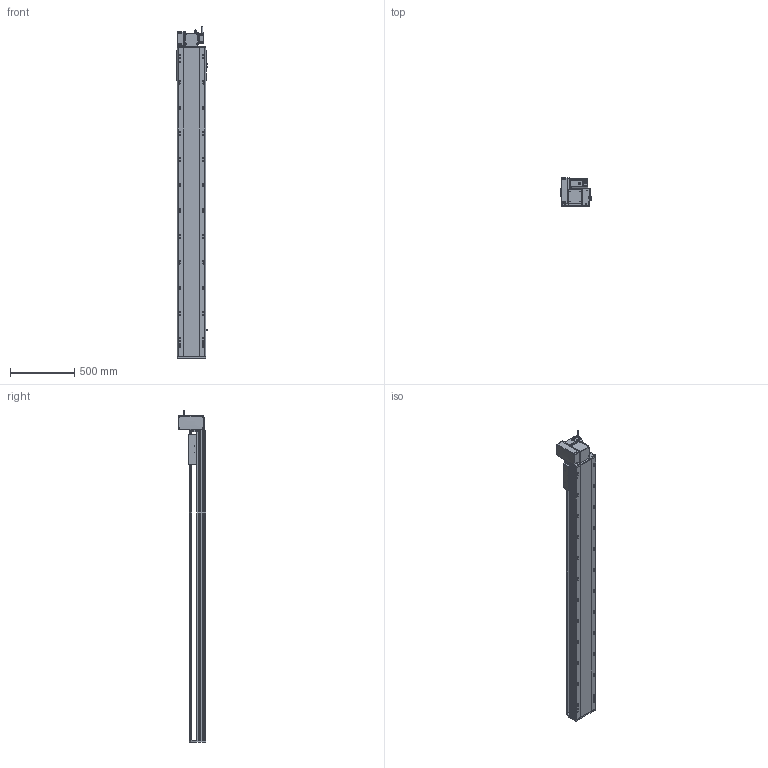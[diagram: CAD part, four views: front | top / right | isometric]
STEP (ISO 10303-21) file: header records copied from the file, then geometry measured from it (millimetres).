
FILE_DESCRIPTION (( 'STEP AP214' ), '1' );
FILE_NAME ('RTB22S-XX-2050-LW-M75-C4.STEP', '2025-12-12T06:00:48', ( '' ), ( '' ), 'SwSTEP 2.0', 'SolidWorks 2018', '' );
FILE_SCHEMA (( 'AUTOMOTIVE_DESIGN' ));
Length unit declared in the file: millimetre
Products named in the file (14): RTB22S-GY-018P^RTB22S-LW-々湍釱蚾饜_RTB22S-XX-XX-LW-M75-C4; RTH22-GY-013外置感应片^RTB22S-XX-XX-LW-M75-C4; RTB22S-L-011菁釱^RTB22S-XX-XX-LW-M75-C4; RTB22S-GY-008-M75--萇儂啣^RTB22S-LW-々湍釱蚾饜_RTB22S-XX-XX-LW-M75-C4; RTB22S-GY-005P^RTB22S-LW-々湍釱蚾饜_RTB22S-XX-XX-LW-M75-C4; RTB22S-LW-々湍釱蚾饜^RTB22S-XX-XX-LW-M75-C4; RTB22S-GY-007奻裔^RTB22S-XX-XX-LW-M75-C4; RTB22S-GY-017P^RTB22S-LW-々湍釱蚾饜_RTB22S-XX-XX-LW-M75-C4; OMRON EE-SX672 传感器^RTB22S-XX-XX-LW-M75-C4; RTB22S-GY-001耜裔^RTB22S-XX-XX-LW-M75-C4; 750W萇儂^RTB22S-XX-XX-LW-M75-C4; RTB22S-GY-014--々湍釱^RTB22S-LW-々湍釱蚾饜_RTB22S-XX-XX-LW-M75-C4; RTB22S-L-004賑釱^RTB22S-XX-XX-LW-M75-C4; RTB22S-XX-2050-LW-M75-C4
Assembly tree (16 placements, depth 3):
  RTB22S-XX-2050-LW-M75-C4
    RTB22S-L-011菁釱^RTB22S-XX-XX-LW-M75-C4
    RTB22S-GY-001耜裔^RTB22S-XX-XX-LW-M75-C4
    750W萇儂^RTB22S-XX-XX-LW-M75-C4
    RTB22S-GY-007奻裔^RTB22S-XX-XX-LW-M75-C4
    RTB22S-L-004賑釱^RTB22S-XX-XX-LW-M75-C4
    RTH22-GY-013外置感应片^RTB22S-XX-XX-LW-M75-C4
    OMRON EE-SX672 传感器^RTB22S-XX-XX-LW-M75-C4  x3
    RTB22S-LW-々湍釱蚾饜^RTB22S-XX-XX-LW-M75-C4
      RTB22S-GY-014--々湍釱^RTB22S-LW-々湍釱蚾饜_RTB22S-XX-XX-LW-M75-C4
      RTB22S-GY-017P^RTB22S-LW-々湍釱蚾饜_RTB22S-XX-XX-LW-M75-C4  x2
      RTB22S-GY-005P^RTB22S-LW-々湍釱蚾饜_RTB22S-XX-XX-LW-M75-C4
      RTB22S-GY-008-M75--萇儂啣^RTB22S-LW-々湍釱蚾饜_RTB22S-XX-XX-LW-M75-C4
      RTB22S-GY-018P^RTB22S-LW-々湍釱蚾饜_RTB22S-XX-XX-LW-M75-C4
Bounding box: 238.5 x 215.5 x 2582.2 mm (x, y, z)
Volume: 33517661.3 mm3; surface area: 3440809.4 mm2
Topology: 15 solids, 15 shells, 2073 faces, 5636 edges, 3602 vertices
Faces by surface type: plane 925, cylinder 682, bspline 296, cone 158, sphere 8, torus 4
Entity records: 56058 total; most frequent: CARTESIAN_POINT 15912, ORIENTED_EDGE 8020, DIRECTION 7804, EDGE_CURVE 4010, AXIS2_PLACEMENT_3D 2786, VERTEX_POINT 2606, LINE 2232, VECTOR 2232
